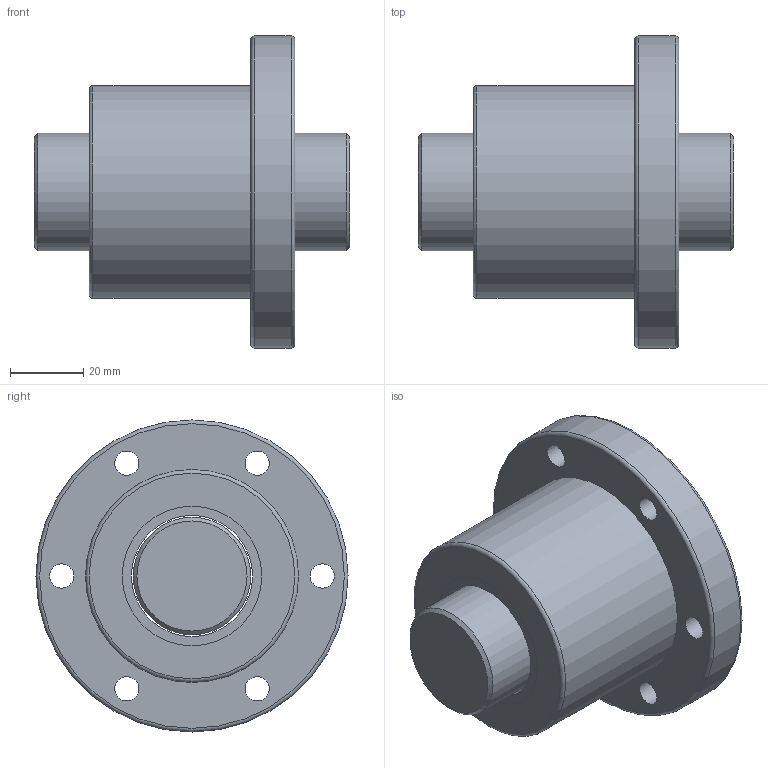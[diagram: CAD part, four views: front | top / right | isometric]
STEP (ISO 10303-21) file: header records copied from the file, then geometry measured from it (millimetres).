
FILE_DESCRIPTION(/* description */ (''),/* implementation_level */ '2;1');
FILE_NAME(/* name */ 'SFT3205',/* time_stamp */ '2007-10-26T11:10:35+08:00',/* author */ (''),/* organization */ (''),/* preprocessor_version */ 'ST-DEVELOPER v9',/* originating_system */ 'EDS PLM SOLUTIONS - UNIGRAPHICS NX 1.0',/* authorisation */ '');
FILE_SCHEMA (('CONFIG_CONTROL_DESIGN'));
Length unit declared in the file: millimetre
Products named in the file (1): FANNDA0400df
Bounding box: 86 x 85 x 85 mm (x, y, z)
Volume: 200527.6 mm3; surface area: 42092.7 mm2
Topology: 4 solids, 4 shells, 44 faces, 81 edges, 54 vertices
Faces by surface type: cylinder 22, plane 17, torus 3, cone 2
Full cylindrical faces by diameter (mm): 6.6 x6, 11 x6, 32 x1, 33 x3, 38 x4, 58 x1, 85 x1
Entity records: 1050 total; most frequent: DIRECTION 188, CARTESIAN_POINT 143, EDGE_LOOP 98, ORIENTED_EDGE 98, AXIS2_PLACEMENT_3D 94, FACE_BOUND 79, VERTEX_POINT 49, EDGE_CURVE 49
